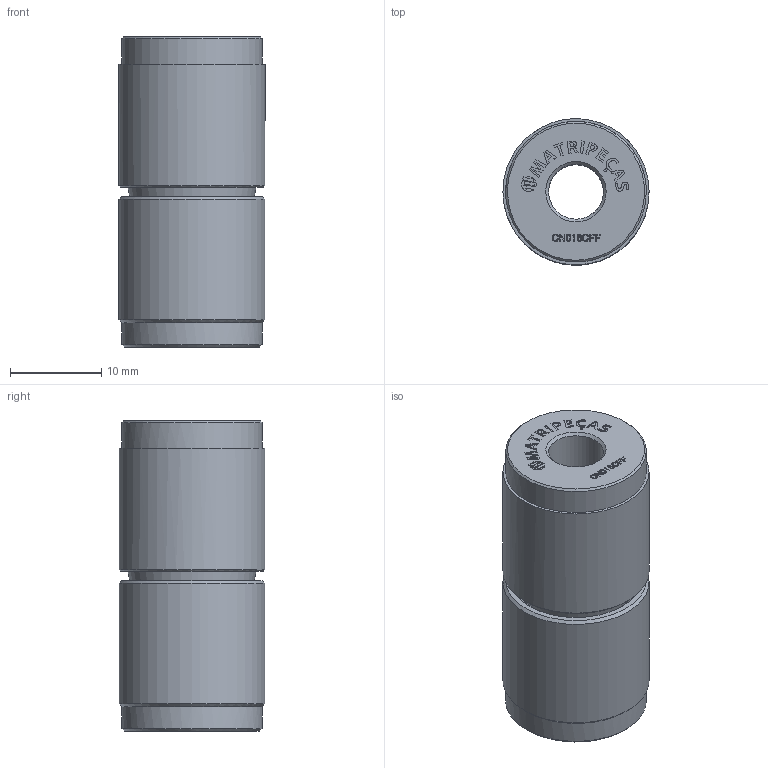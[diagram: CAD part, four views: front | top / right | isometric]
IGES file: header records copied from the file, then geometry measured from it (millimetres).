
Start section: C
Global section: file name: CN016CFF.igs; native system: By Siemens PLM Incorporated; preprocessor: XPlus GENERIC/IGES 18.0.17; author: Author; organization: Title; date: 20240719.102648; units: millimetre
Bounding box: 16 x 15.98 x 34 mm (x, y, z)
Volume: 5386.8 mm3; surface area: 3355.2 mm2
Topology: 2 solids, 2 shells, 505 faces, 1328 edges, 884 vertices
Faces by surface type: bspline 505
